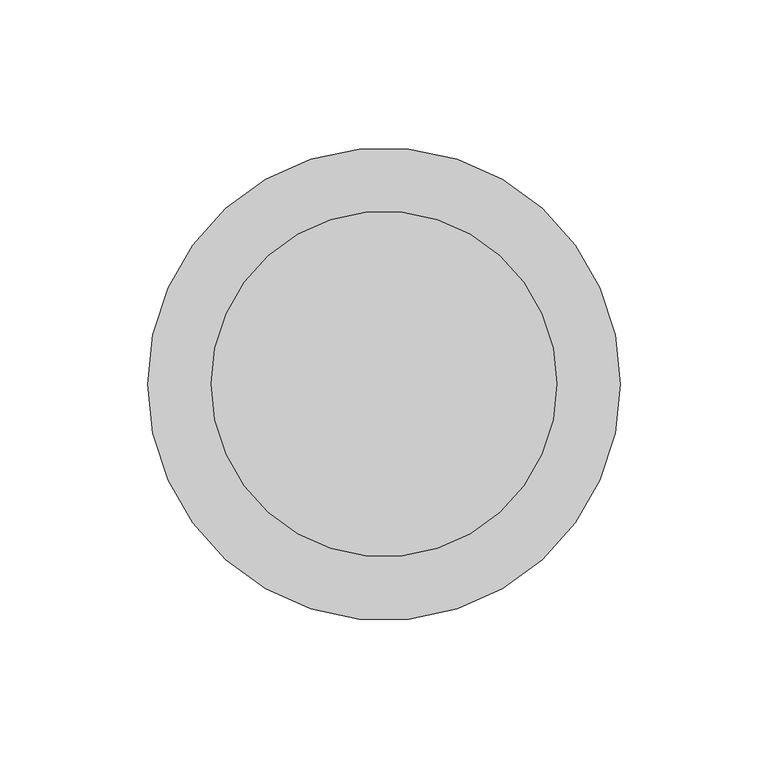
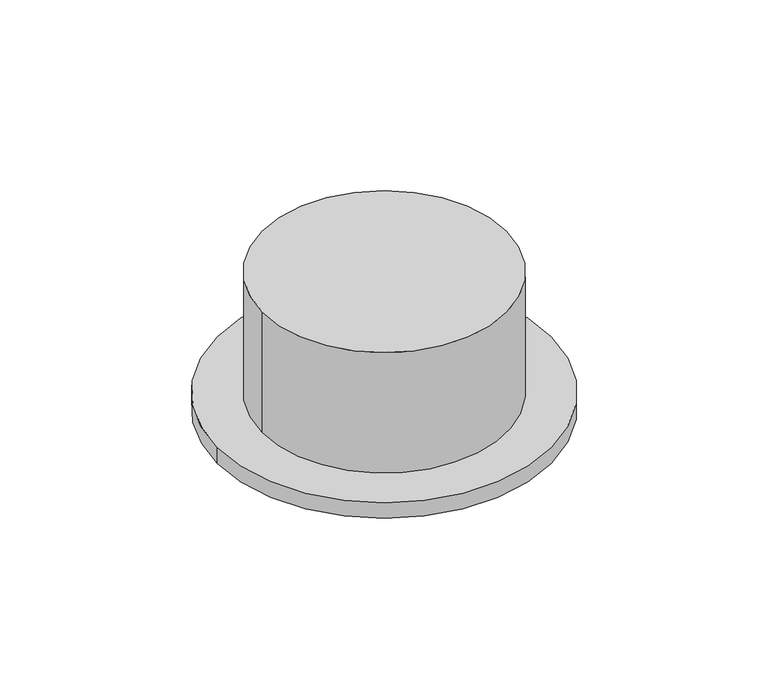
"""IFC4 building model written with IfcOpenShell, lengths in millimetres: air terminal geometry, NLRS_57_AIR_WPB_extraction air valve_M&G : Conus."""

import ifcopenshell
import ifcopenshell.guid

model = None  # the IFC model being written
_history = None  # IfcOwnerHistory: only IFC2X3 demands one
_inside = {}  # id of a spatial element -> (the spatial element, [elements in it])
_under = {}  # id of a project, library or spatial element -> (it, [spatial elements below it])
_declared = {}  # id of a project -> (the project, [libraries it declares])
_typed = {}  # id of a type object -> (the type object, [elements of that type])
_made_of = {}  # id of a material, layer set ... -> (it, [elements and type objects made of it])


def new_model(schema):
    """Start an empty IFC model of exactly this schema.

    Asked for "IFC4X3", IfcOpenShell would pick the latest addendum, in which some entities
    have other attributes; the version numbers below select the first issue.
    IFC2X3 requires an IfcOwnerHistory on every rooted entity: one is made here for all.
    """
    global model, _history
    if schema == "IFC4X3":
        model = ifcopenshell.file(schema_version=(4, 3, 0, 0))
    else:
        model = ifcopenshell.file(schema=schema)
    _inside.clear()
    _under.clear()
    _declared.clear()
    _typed.clear()
    _made_of.clear()
    _history = None
    if model.schema == "IFC2X3":
        org = make("IfcOrganization", Name="unknown")
        user = make(
            "IfcPersonAndOrganization",
            ThePerson=make("IfcPerson", FamilyName="unknown"),
            TheOrganization=org,
        )
        app = make(
            "IfcApplication",
            ApplicationDeveloper=org,
            Version="unknown",
            ApplicationFullName="unknown",
            ApplicationIdentifier="unknown",
        )
        _history = make(
            "IfcOwnerHistory",
            OwningUser=user,
            OwningApplication=app,
            ChangeAction="ADDED",
            CreationDate=0,
        )
    return model


def make(cls, **values):
    """One entity of the class cls with the attributes given. An attribute that is None is left unset."""
    return model.create_entity(
        cls, **{name: value for name, value in values.items() if value is not None}
    )


def rooted(cls, **values):
    """An entity with a GlobalId (a new one), such as an element, a storey or a relation."""
    return make(cls, GlobalId=ifcopenshell.guid.new(), OwnerHistory=_history, **values)


def si_unit(unit_type, name, prefix=None):
    """IfcSIUnit, for example si_unit("LENGTHUNIT", "METRE", prefix="MILLI")."""
    return make("IfcSIUnit", UnitType=unit_type, Prefix=prefix, Name=name)


def assignment(units):
    """IfcUnitAssignment: the units of a project."""
    return None if units is None else make("IfcUnitAssignment", Units=units)


def point(xyz):
    """IfcCartesianPoint."""
    return None if xyz is None else make("IfcCartesianPoint", Coordinates=xyz)


def direction(xyz):
    """IfcDirection."""
    return None if xyz is None else make("IfcDirection", DirectionRatios=xyz)


def frame(location, z_axis=None, x_axis=None):
    """IfcAxis2Placement3D, a coordinate frame: its origin and axes. An axis left out is left unset."""
    return make(
        "IfcAxis2Placement3D",
        Location=point(location),
        Axis=direction(z_axis),
        RefDirection=direction(x_axis),
    )


def frame_2d(location, x_axis=None):
    """IfcAxis2Placement2D, a coordinate frame in the plane: its origin and x axis."""
    return make(
        "IfcAxis2Placement2D", Location=point(location), RefDirection=direction(x_axis)
    )


def origin():
    """The frame at (0, 0, 0) with its axes left unset."""
    return frame((0.0, 0.0, 0.0))


def origin_with_axes():
    """The frame at (0, 0, 0) with the z axis (0, 0, 1) and the x axis (1, 0, 0) written out."""
    return frame((0.0, 0.0, 0.0), z_axis=(0.0, 0.0, 1.0), x_axis=(1.0, 0.0, 0.0))


def origin_2d():
    """The frame at (0, 0) in the plane with its x axis left unset."""
    return frame_2d((0.0, 0.0))


def place(relative_to, where):
    """IfcLocalPlacement: puts the frame where relative to a parent placement (None: the world)."""
    return make(
        "IfcLocalPlacement", PlacementRelTo=relative_to, RelativePlacement=where
    )


def context(
    kind, dimensions, precision=None, world=None, true_north=None, identifier=None
):
    """IfcGeometricRepresentationContext, for example the 3D "Model" context."""
    return make(
        "IfcGeometricRepresentationContext",
        ContextIdentifier=identifier,
        ContextType=kind,
        CoordinateSpaceDimension=dimensions,
        Precision=precision,
        WorldCoordinateSystem=world,
        TrueNorth=true_north,
    )


def project(units=None, contexts=None):
    """IfcProject with its units and contexts."""
    return rooted(
        "IfcProject",
        Name="project",
        RepresentationContexts=contexts,
        UnitsInContext=assignment(units),
    )


def spatial(cls, under=None, at=None, **own):
    """A site, building, storey or space (cls), placed at a placement, below another one or the project."""
    s = rooted(cls, ObjectPlacement=at, **own)
    if under is not None:
        _under.setdefault(under.id(), (under, []))[1].append(s)
    return s


def circle_curve(where, radius):
    """IfcCircle in the frame where."""
    return make("IfcCircle", Position=where, Radius=radius)


def trimmed(basis, trim1, trim2, sense, master):
    """IfcTrimmedCurve: the piece of a basis curve between two trims."""
    return make(
        "IfcTrimmedCurve",
        BasisCurve=basis,
        Trim1=trim1,
        Trim2=trim2,
        SenseAgreement=sense,
        MasterRepresentation=master,
    )


def segment(curve, same_sense, transition):
    """IfcCompositeCurveSegment."""
    return make(
        "IfcCompositeCurveSegment",
        Transition=transition,
        SameSense=same_sense,
        ParentCurve=curve,
    )


def composite_curve(segments, self_intersect=None):
    """IfcCompositeCurve: segments joined end to end."""
    return make("IfcCompositeCurve", Segments=segments, SelfIntersect=self_intersect)


def outline(outer, holes=None, kind="AREA"):
    """IfcArbitraryClosedProfileDef: a profile drawn as a closed curve; with holes, ...WithVoids."""
    if holes is None:
        return make("IfcArbitraryClosedProfileDef", ProfileType=kind, OuterCurve=outer)
    return make(
        "IfcArbitraryProfileDefWithVoids",
        ProfileType=kind,
        OuterCurve=outer,
        InnerCurves=holes,
    )


def extrude(swept, where, along, depth):
    """IfcExtrudedAreaSolid: the profile swept, set in the frame where, extruded along a direction by depth."""
    return make(
        "IfcExtrudedAreaSolid",
        SweptArea=swept,
        Position=where,
        ExtrudedDirection=direction(along),
        Depth=depth,
    )


def shape(context_of_items, identifier, shape_type, items):
    """IfcShapeRepresentation: the items that make up one representation, for example the "Body"."""
    return make(
        "IfcShapeRepresentation",
        ContextOfItems=context_of_items,
        RepresentationIdentifier=identifier,
        RepresentationType=shape_type,
        Items=items,
    )


def source(mapping_origin, context_of_items, identifier, shape_type, items):
    """IfcRepresentationMap: a shape defined once, which mapped items show again and again."""
    return make(
        "IfcRepresentationMap",
        MappingOrigin=mapping_origin,
        MappedRepresentation=shape(context_of_items, identifier, shape_type, items),
    )


def transform(
    local_origin,
    x_axis=None,
    y_axis=None,
    z_axis=None,
    scale=None,
    scale2=None,
    scale3=None,
    uniform=True,
):
    """IfcCartesianTransformationOperator3D, or its non-uniform kind. x_axis, y_axis, z_axis: its Axis1, 2, 3."""
    if uniform:
        return make(
            "IfcCartesianTransformationOperator3D",
            Axis1=direction(x_axis),
            Axis2=direction(y_axis),
            LocalOrigin=point(local_origin),
            Scale=scale,
            Axis3=direction(z_axis),
        )
    return make(
        "IfcCartesianTransformationOperator3DnonUniform",
        Axis1=direction(x_axis),
        Axis2=direction(y_axis),
        LocalOrigin=point(local_origin),
        Scale=scale,
        Axis3=direction(z_axis),
        Scale2=scale2,
        Scale3=scale3,
    )


def mapped(mapping_source, mapping_target):
    """IfcMappedItem: shows the shape of a source again, moved by a transform."""
    return make(
        "IfcMappedItem", MappingSource=mapping_source, MappingTarget=mapping_target
    )


def made_of(thing, what):
    """Note that an element or type object is made of a material, layer set ...; save() writes the relation."""
    if what is not None:
        _made_of.setdefault(what.id(), (what, []))[1].append(thing)
    return thing


def element(
    cls,
    number,
    at=None,
    inside=None,
    cuts=None,
    type_object=None,
    material=None,
    context=None,
    identifier="Body",
    shape_type=None,
    held_by="IfcProductDefinitionShape",
    body=None,
    shapes=None,
    **own,
):
    """One element of the class cls, such as IfcWall. Its Tag is "e" and its number.

    at: its placement. inside: the storey or other place that contains it. cuts: it is an
    opening in that element (IfcRelVoidsElement). A single representation is given by context,
    identifier, shape_type and body (its items); several are given by shapes. held_by: the class
    of the entity that holds the representations. save() writes the other relations.
    """
    e = rooted(cls, Tag="e%d" % number, ObjectPlacement=at, **own)
    if body is not None:
        shapes = [shape(context, identifier, shape_type, body)]
    if shapes is not None:
        e.Representation = make(held_by, Representations=shapes)
    if inside is not None:
        _inside.setdefault(inside.id(), (inside, []))[1].append(e)
    if cuts is not None:
        rooted(
            "IfcRelVoidsElement", RelatingBuildingElement=cuts, RelatedOpeningElement=e
        )
    if type_object is not None:
        _typed.setdefault(type_object.id(), (type_object, []))[1].append(e)
    return made_of(e, material)


def aggregate(whole, parts):
    """IfcRelAggregates: a whole, such as a stair, and the parts it consists of."""
    return rooted("IfcRelAggregates", RelatingObject=whole, RelatedObjects=parts)


def save(model, path):
    """Write the relations noted so far, then the file.

    IfcRelAggregates (storeys below a building ...), IfcRelContainedInSpatialStructure (elements
    in a storey), IfcRelDefinesByType, IfcRelAssociatesMaterial and IfcRelDeclares: one each for
    every whole, place, type object, material and project.
    """
    for whole, parts in _under.values():
        aggregate(whole, parts)
    for where, things in _inside.values():
        rooted(
            "IfcRelContainedInSpatialStructure",
            RelatedElements=things,
            RelatingStructure=where,
        )
    for kind, things in _typed.values():
        rooted("IfcRelDefinesByType", RelatedObjects=things, RelatingType=kind)
    for what, things in _made_of.values():
        rooted("IfcRelAssociatesMaterial", RelatedObjects=things, RelatingMaterial=what)
    for by, libraries in _declared.values():
        rooted("IfcRelDeclares", RelatingContext=by, RelatedDefinitions=libraries)
    model.write(path)


def air_terminal_9fb1d9b7(model_context):
    return source(origin(), model_context, "Body", "SweptSolid", [
        extrude(outline(composite_curve([segment(trimmed(circle_curve(origin_2d(), 58.5), [point((-58.5, 0.0))], [point((58.5, 0.0))], False, "CARTESIAN"), True, "CONTINUOUS"), segment(trimmed(circle_curve(origin_2d(), 58.5), [point((58.5, 0.0))], [point((-58.5, 0.0))], False, "CARTESIAN"), True, "CONTINUOUS")], self_intersect=False)), origin_with_axes(), (0.0, 0.0, 1.0), 61.0),
        extrude(outline(composite_curve([segment(trimmed(circle_curve(origin_2d(), 80.0), [point((-80.0, 0.0))], [point((80.0, 0.0))], False, "CARTESIAN"), True, "CONTINUOUS"), segment(trimmed(circle_curve(origin_2d(), 80.0), [point((80.0, 0.0))], [point((-80.0, 0.0))], False, "CARTESIAN"), True, "CONTINUOUS")], self_intersect=False)), frame((0.0, 0.0, -8.0), z_axis=(0.0, 0.0, 1.0), x_axis=(1.0, 0.0, 0.0)), (0.0, 0.0, 1.0), 8.0),
        extrude(outline(composite_curve([segment(trimmed(circle_curve(origin_2d(), 58.5), [point((58.5, 0.0))], [point((-58.5, 0.0))], False, "CARTESIAN"), True, "CONTINUOUS"), segment(trimmed(circle_curve(origin_2d(), 58.5), [point((-58.5, 0.0))], [point((58.5, 0.0))], False, "CARTESIAN"), True, "CONTINUOUS")], self_intersect=False)), frame((0.0, 0.0, -18.0), z_axis=(0.0, 0.0, 1.0), x_axis=(1.0, 0.0, 0.0)), (0.0, 0.0, 1.0), 18.0),
    ])


if __name__ == "__main__":
    model = new_model("IFC4")
    model_context = context("Model", 3, world=origin())
    ifc_project = project(units=[si_unit("LENGTHUNIT", "METRE", prefix="MILLI")], contexts=[model_context])
    site = spatial("IfcSite", under=ifc_project)
    building = spatial("IfcBuilding", under=site)
    placement = place(None, origin())
    air_terminal_shape = air_terminal_9fb1d9b7(model_context)
    element("IfcAirTerminal", 1, ObjectType="NLRS_57_AIR_WPB_extraction air valve_M&G : Conus", at=placement, inside=building, context=model_context, shape_type="MappedRepresentation", body=[
        mapped(air_terminal_shape, transform((0.0, 0.0, 0.0), x_axis=(1.0, 0.0, 0.0), y_axis=(0.0, 1.0, 0.0), z_axis=(0.0, 0.0, 1.0))),
    ])
    save(model, "model.ifc")
